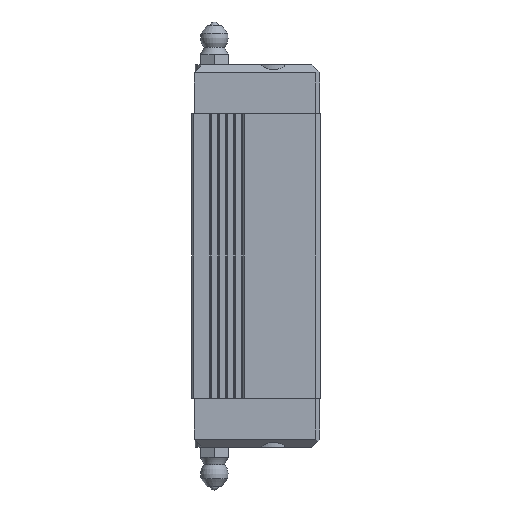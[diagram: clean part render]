
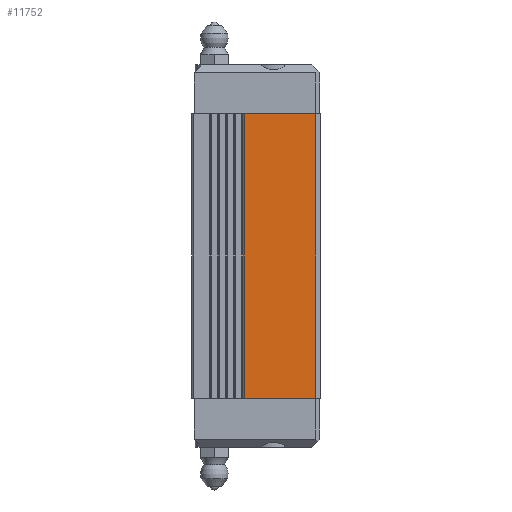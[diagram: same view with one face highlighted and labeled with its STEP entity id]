
A CAD part, left-side view. The second image highlights one B-rep face of the part: STEP entity #11752.
In plain terms, the highlighted planar face has unit normal (-1, 0, 0).
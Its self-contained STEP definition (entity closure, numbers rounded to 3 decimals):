
#559 = CARTESIAN_POINT ( 'NONE',  ( -25., 18.7, 35. ) ) ;
#882 = EDGE_CURVE ( 'NONE', #9307, #10118, #4912, .T. ) ;
#1152 = CARTESIAN_POINT ( 'NONE',  ( -25., 1., -35. ) ) ;
#1378 = DIRECTION ( 'NONE',  ( 0., 0., -1. ) ) ;
#1498 = VERTEX_POINT ( 'NONE', #12587 ) ;
#1510 = DIRECTION ( 'NONE',  ( 0., -1., 0. ) ) ;
#2257 = DIRECTION ( 'NONE',  ( 0., -1., 0. ) ) ;
#3462 = VERTEX_POINT ( 'NONE', #1152 ) ;
#3926 = FACE_OUTER_BOUND ( 'NONE', #5274, .T. ) ;
#4015 = VECTOR ( 'NONE', #8468, 1000. ) ;
#4095 = LINE ( 'NONE', #10950, #4015 ) ;
#4838 = VECTOR ( 'NONE', #1510, 1000. ) ;
#4898 = CARTESIAN_POINT ( 'NONE',  ( -25., 1., 35. ) ) ;
#4912 = LINE ( 'NONE', #9892, #4838 ) ;
#4933 = ORIENTED_EDGE ( 'NONE', *, *, #11722, .F. ) ;
#5241 = VECTOR ( 'NONE', #2257, 1000. ) ;
#5274 = EDGE_LOOP ( 'NONE', ( #5561, #4933, #10237, #9870 ) ) ;
#5320 = LINE ( 'NONE', #10703, #5241 ) ;
#5535 = EDGE_CURVE ( 'NONE', #9307, #1498, #6669, .T. ) ;
#5561 = ORIENTED_EDGE ( 'NONE', *, *, #6104, .T. ) ;
#6104 = EDGE_CURVE ( 'NONE', #1498, #3462, #5320, .T. ) ;
#6652 = VECTOR ( 'NONE', #14547, 1000. ) ;
#6669 = LINE ( 'NONE', #11485, #6652 ) ;
#7044 = AXIS2_PLACEMENT_3D ( 'NONE', #4898, #8522, #1378 ) ;
#8468 = DIRECTION ( 'NONE',  ( 0., 0., -1. ) ) ;
#8522 = DIRECTION ( 'NONE',  ( 1., 0., 0. ) ) ;
#9307 = VERTEX_POINT ( 'NONE', #559 ) ;
#9870 = ORIENTED_EDGE ( 'NONE', *, *, #5535, .T. ) ;
#9892 = CARTESIAN_POINT ( 'NONE',  ( -25., 1., 35. ) ) ;
#10118 = VERTEX_POINT ( 'NONE', #13774 ) ;
#10237 = ORIENTED_EDGE ( 'NONE', *, *, #882, .F. ) ;
#10703 = CARTESIAN_POINT ( 'NONE',  ( -25., 31., -35. ) ) ;
#10950 = CARTESIAN_POINT ( 'NONE',  ( -25., 1., 35. ) ) ;
#11485 = CARTESIAN_POINT ( 'NONE',  ( -25., 18.7, 35. ) ) ;
#11722 = EDGE_CURVE ( 'NONE', #10118, #3462, #4095, .T. ) ;
#11752 = ADVANCED_FACE ( 'NONE', ( #3926 ), #13114, .F. ) ;
#12587 = CARTESIAN_POINT ( 'NONE',  ( -25., 18.7, -35. ) ) ;
#13114 = PLANE ( 'NONE',  #7044 ) ;
#13774 = CARTESIAN_POINT ( 'NONE',  ( -25., 1., 35. ) ) ;
#14547 = DIRECTION ( 'NONE',  ( 0., 0., -1. ) ) ;
